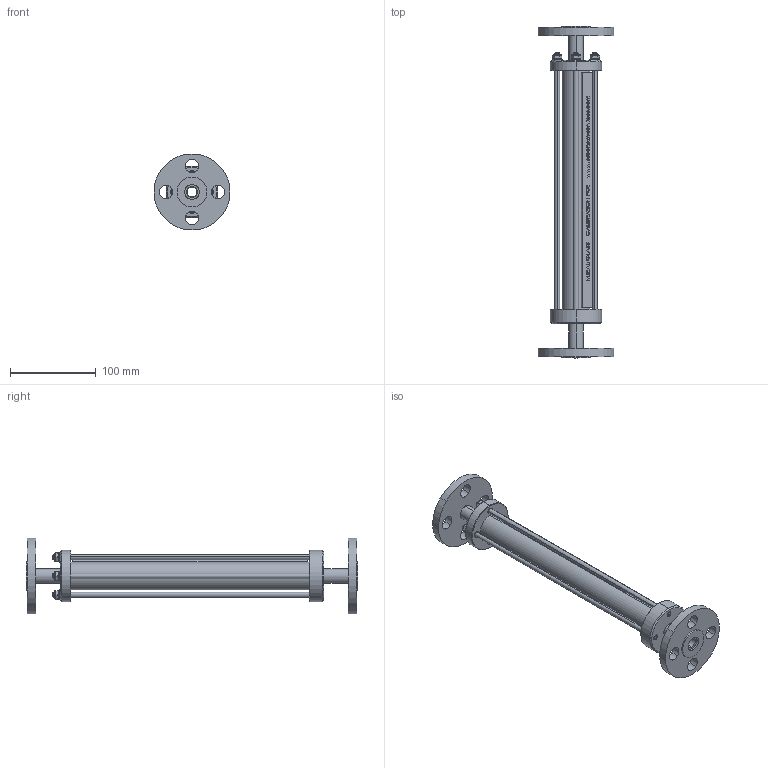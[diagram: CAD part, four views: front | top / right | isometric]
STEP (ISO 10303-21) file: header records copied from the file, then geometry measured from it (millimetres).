
FILE_DESCRIPTION (( 'STEP AP214' ), '1' );
FILE_NAME ('0.125LTR-C-44-34.STEP', '2025-11-05T15:25:49', ( '' ), ( '' ), 'SwSTEP 2.0', 'SolidWorks 2024', '' );
FILE_SCHEMA (( 'AUTOMOTIVE_DESIGN' ));
Length unit declared in the file: millimetre
Products named in the file (1): 0.125LTR-C-44-34
Bounding box: 88.56 x 387 x 88.56 mm (x, y, z)
Volume: 302891.3 mm3; surface area: 154288.4 mm2
Topology: 20 solids, 20 shells, 1504 faces, 3894 edges, 2512 vertices
Faces by surface type: cylinder 520, plane 465, bspline 343, cone 88, sphere 72, torus 16
Entity records: 106330 total; most frequent: CARTESIAN_POINT 57246, ORIENTED_EDGE 7788, DIRECTION 5252, EDGE_CURVE 3894, VERTEX_POINT 2512, LINE 1812, VECTOR 1812, AXIS2_PLACEMENT_3D 1720
